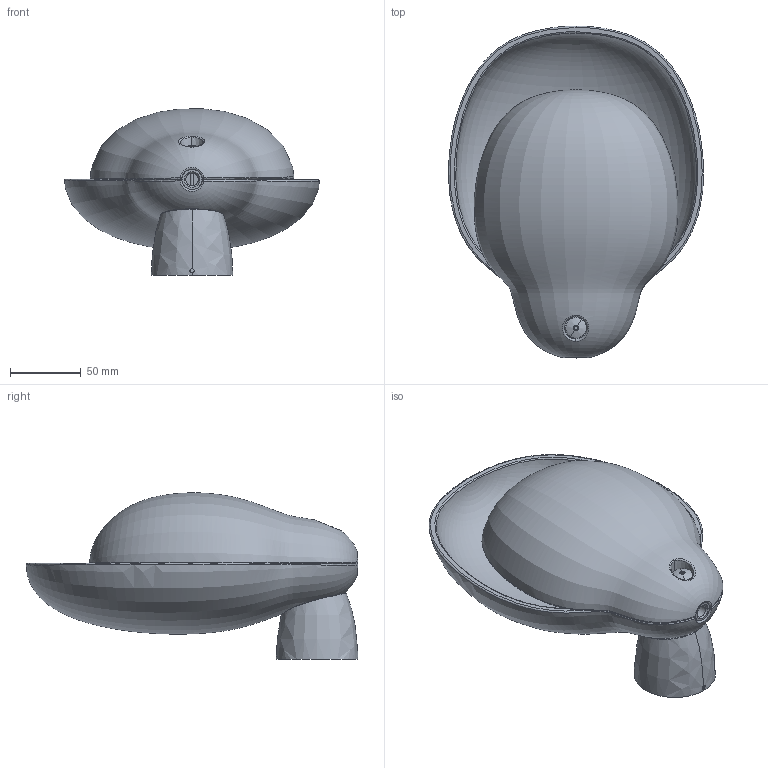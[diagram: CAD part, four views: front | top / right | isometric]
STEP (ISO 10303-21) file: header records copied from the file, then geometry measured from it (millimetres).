
FILE_DESCRIPTION (( 'STEP AP214' ), '1' );
FILE_NAME ('Petal Wall Light - Small Lightweight.STEP', '2024-02-16T05:49:14', ( '' ), ( '' ), 'SwSTEP 2.0', 'SolidWorks 2017', '' );
FILE_SCHEMA (( 'AUTOMOTIVE_DESIGN' ));
Length unit declared in the file: millimetre
Products named in the file (1): Petal Wall Light - Small Lightweight
Bounding box: 179.86 x 234.13 x 117.29 mm (x, y, z)
Volume: 544912.4 mm3; surface area: 216837.3 mm2
Topology: 4 solids, 6 shells, 195 faces, 474 edges, 288 vertices
Faces by surface type: bspline 84, cylinder 40, plane 30, cone 15, sphere 14, torus 12
Entity records: 77883 total; most frequent: CARTESIAN_POINT 71860, ORIENTED_EDGE 932, DIRECTION 664, EDGE_CURVE 466, AXIS2_PLACEMENT_3D 295, VERTEX_POINT 288, EDGE_LOOP 212, B_SPLINE_CURVE_WITH_KNOTS 198
